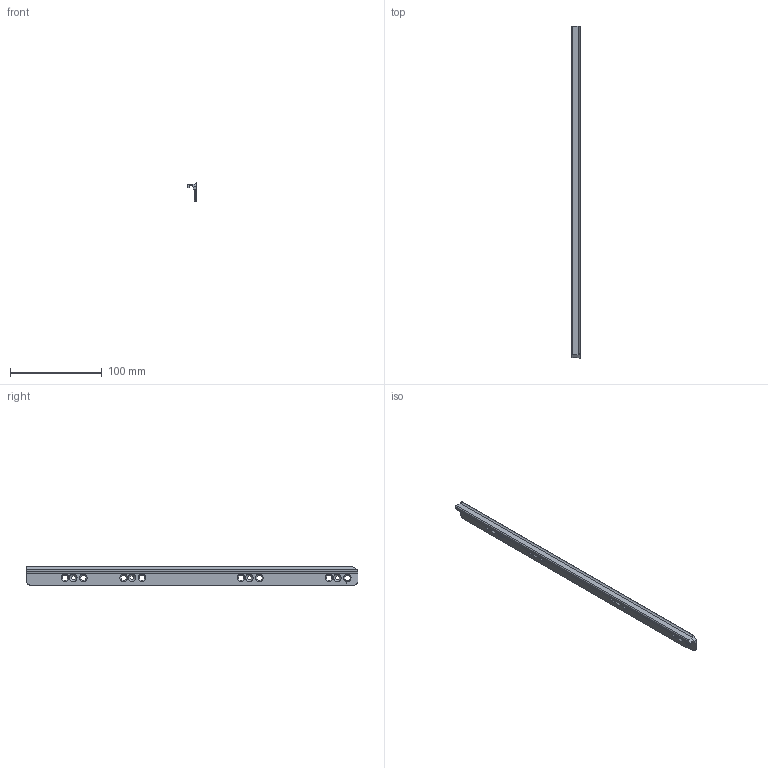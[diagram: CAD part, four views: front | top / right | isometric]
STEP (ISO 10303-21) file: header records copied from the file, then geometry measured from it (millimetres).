
FILE_DESCRIPTION (( 'STEP AP214' ), '1' );
FILE_NAME ('Zahnstange-rechts_NL350_K760018100.step', '2010-09-22T07:56:40', ( 'grass' ), ( '' ), 'SwSTEP 2.0', 'SolidWorks 2010', '' );
FILE_SCHEMA (( 'AUTOMOTIVE_DESIGN' ));
Length unit declared in the file: millimetre
Products named in the file (1): Zahnstange-rechts_NL350_K760018100
Bounding box: 9.5 x 362 x 20 mm (x, y, z)
Volume: 22170.5 mm3; surface area: 21798.7 mm2
Topology: 1 solids, 1 shells, 84 faces, 210 edges, 127 vertices
Faces by surface type: cylinder 44, cone 24, plane 16
Entity records: 2577 total; most frequent: DIRECTION 466, CARTESIAN_POINT 443, ORIENTED_EDGE 420, EDGE_CURVE 210, AXIS2_PLACEMENT_3D 178, VERTEX_POINT 127, LINE 110, VECTOR 110
